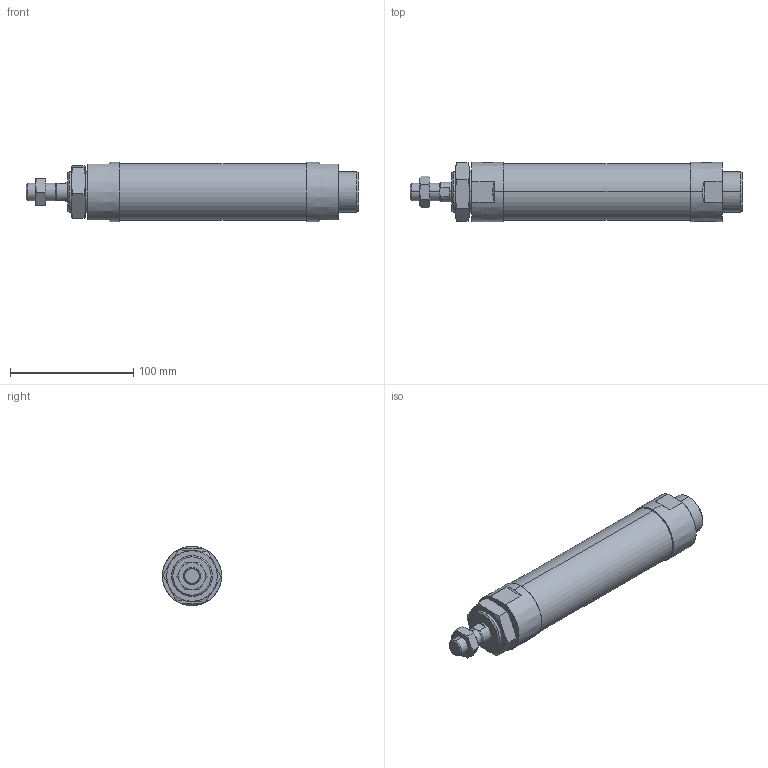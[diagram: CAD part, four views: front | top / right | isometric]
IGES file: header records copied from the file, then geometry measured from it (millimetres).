
Start section: SolidWorks IGES file using analytic representation for surfaces
Global section: file name: C:\Users\Toshiba\Desktop\J#2-40-100-N.IGS; native system: SolidWorks 2014; preprocessor: SolidWorks 2014; author: Toshiba; date: 160308.155830; units: millimetre
Bounding box: 269 x 48 x 48 mm (x, y, z)
Surface area: 44887.5 mm2 (no closed solid volume)
Topology: 0 solids, 0 shells, 94 faces, 1846 edges, 1842 vertices
Faces by surface type: bspline 57, revolution 37
